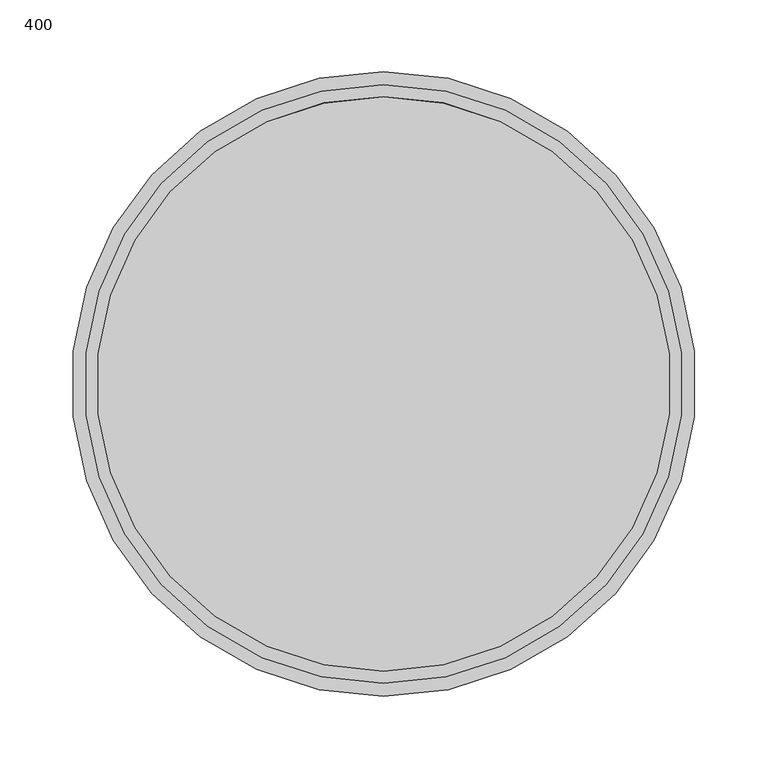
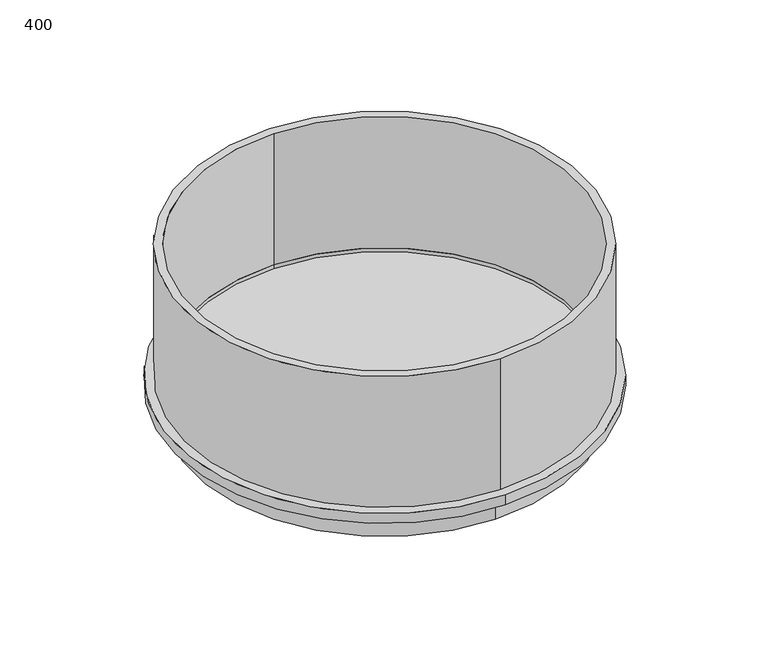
"""IFC4 building model written with IfcOpenShell, lengths in millimetres: pipe fitting geometry, Pipelife - Stormbox II - Adaptor PPDW 400 : 400."""

from ifc_helpers import new_model, si_unit, point, frame, origin, origin_2d, place, context, project, spatial, polyline, circle_curve, trimmed, segment, composite_curve, outline, extrude, source, transform, mapped, element, save
from ifc_brep_helpers import plane_surface, cylinder_surface, revolved_surface, advanced_brep


def pipe_fitting_400_25bab9bb(model_context):
    return source(origin(), model_context, "Body", "SolidModel", [
        extrude(outline(composite_curve([segment(trimmed(circle_curve(origin_2d(), 200.0), [point((0.0, 200.0))], [point((0.0, -200.0))], False, "CARTESIAN"), True, "CONTINUOUS"), segment(trimmed(circle_curve(origin_2d(), 200.0), [point((0.0, -200.0))], [point((0.0, 200.0))], False, "CARTESIAN"), True, "CONTINUOUS")], self_intersect=False), holes=[composite_curve([segment(trimmed(circle_curve(origin_2d(), 194.5), [point((-194.5, 0.0))], [point((194.5, 0.0))], True, "CARTESIAN"), True, "CONTINUOUS"), segment(trimmed(circle_curve(origin_2d(), 194.5), [point((194.5, 0.0))], [point((-194.5, 0.0))], True, "CARTESIAN"), True, "CONTINUOUS")], self_intersect=False)]), frame((0.0, 0.0, -27.0), z_axis=(0.0, 0.0, 1.0), x_axis=(1.0, 0.0, 0.0)), (0.0, 0.0, 1.0), 27.0),
        advanced_brep(
        [(0.0, 218.0, 11.0), (0.0, -218.0, 11.0), (0.0, -200.5, 11.0), (0.0, 200.5, 11.0), (0.0, 218.0, 0.0), (0.0, -218.0, 0.0), (-194.5, 0.0, 0.0), (194.5, 0.0, 0.0), (0.0, 200.5, 7.0), (0.0, -200.5, 7.0), (194.5, 0.0, 5.0), (-194.5, 0.0, 5.0)],
        [
            (0, 1, circle_curve(frame((0.0, 0.0, 11.0), z_axis=(0.0, 0.0, 1.0), x_axis=(0.0, -1.0, 0.0)), 218.0)),
            (1, 0, circle_curve(frame((0.0, 0.0, 11.0), z_axis=(0.0, 0.0, 1.0), x_axis=(0.0, -1.0, 0.0)), 218.0)),
            (2, 3, circle_curve(frame((0.0, 0.0, 11.0), z_axis=(0.0, 0.0, -1.0), x_axis=(0.0, -1.0, 0.0)), 200.5)),
            (3, 2, circle_curve(frame((0.0, 0.0, 11.0), z_axis=(0.0, 0.0, -1.0), x_axis=(0.0, -1.0, 0.0)), 200.5)),
            (4, 5, circle_curve(frame((0.0, 0.0, 0.0), z_axis=(0.0, 0.0, -1.0), x_axis=(0.0, -1.0, 0.0)), 218.0)),
            (5, 4, circle_curve(frame((0.0, 0.0, 0.0), z_axis=(0.0, 0.0, -1.0), x_axis=(0.0, -1.0, 0.0)), 218.0)),
            (6, 7, circle_curve(frame((0.0, 0.0, 0.0), z_axis=(0.0, 0.0, 1.0), x_axis=(-1.0, 0.0, 0.0)), 194.5)),
            (7, 6, circle_curve(frame((0.0, 0.0, 0.0), z_axis=(0.0, 0.0, 1.0), x_axis=(-1.0, 0.0, 0.0)), 194.5)),
            (0, 4),
            (5, 1),
            (8, 9, circle_curve(frame((0.0, 0.0, 7.0), z_axis=(0.0, 0.0, 1.0), x_axis=(0.0, -1.0, 0.0)), 200.5)),
            (9, 8, circle_curve(frame((0.0, 0.0, 7.0), z_axis=(0.0, 0.0, 1.0), x_axis=(0.0, -1.0, 0.0)), 200.5)),
            (8, 3),
            (2, 9),
            (10, 11, circle_curve(frame((0.0, 0.0, 5.0), z_axis=(0.0, 0.0, -1.0), x_axis=(-1.0, 0.0, 0.0)), 194.5)),
            (11, 10, circle_curve(frame((0.0, 0.0, 5.0), z_axis=(0.0, 0.0, -1.0), x_axis=(-1.0, 0.0, 0.0)), 194.5)),
            (10, 7),
            (6, 11),
        ],
        [
            plane_surface(frame((0.0, 0.0, 11.0), z_axis=(0.0, 0.0, 1.0), x_axis=(0.0, -1.0, 0.0))),
            plane_surface(frame((0.0, 0.0, 0.0), z_axis=(0.0, 0.0, -1.0), x_axis=(0.0, -1.0, 0.0))),
            cylinder_surface(frame((0.0, 0.0, 11.0), z_axis=(0.0, 0.0, 1.0), x_axis=(0.0, -1.0, 0.0)), 218.0),
            plane_surface(frame((0.0, 0.0, 7.0), z_axis=(0.0, 0.0, 1.0), x_axis=(0.0, -1.0, 0.0))),
            revolved_surface(polyline([(0.0, -200.5, 11.0), (0.0, -200.5, 7.0)]), (0.0, 0.0, 156.0), (0.0, 0.0, 1.0)),
            plane_surface(frame((0.0, 0.0, 5.0), z_axis=(0.0, 0.0, -1.0), x_axis=(0.0, -1.0, 0.0))),
            revolved_surface(polyline([(-194.5, 0.0, 0.0), (-194.5, 0.0, 5.0)]), (0.0, 0.0, -27.0), (0.0, 0.0, -1.0)),
        ],
        [
            (0, [[1, 2], [3, 4]]),
            (1, [[5, 6], [7, 8]]),
            (2, [[-1, 9, -6, 10]]),
            (2, [[-2, -10, -5, -9]]),
            (3, [[11, 12]]),
            (4, [[-11, 13, -3, 14]]),
            (4, [[-12, -14, -4, -13]]),
            (5, [[15, 16]]),
            (6, [[-15, 17, -7, 18]]),
            (6, [[-16, -18, -8, -17]]),
        ],
    ),
        extrude(outline(composite_curve([segment(trimmed(circle_curve(origin_2d(), 209.0), [point((0.0, 209.0))], [point((0.0, -209.0))], False, "CARTESIAN"), True, "CONTINUOUS"), segment(trimmed(circle_curve(origin_2d(), 209.0), [point((0.0, -209.0))], [point((0.0, 209.0))], False, "CARTESIAN"), True, "CONTINUOUS")], self_intersect=False), holes=[composite_curve([segment(trimmed(circle_curve(origin_2d(), 200.5), [point((0.0, 200.5))], [point((0.0, -200.5))], True, "CARTESIAN"), True, "CONTINUOUS"), segment(trimmed(circle_curve(origin_2d(), 200.5), [point((0.0, -200.5))], [point((0.0, 200.5))], True, "CARTESIAN"), True, "CONTINUOUS")], self_intersect=False)]), frame((0.0, 0.0, 11.0), z_axis=(0.0, 0.0, 1.0), x_axis=(1.0, 0.0, 0.0)), (0.0, 0.0, 1.0), 145.0),
    ])


if __name__ == "__main__":
    model = new_model("IFC4")
    model_context = context("Model", 3, world=origin())
    ifc_project = project(units=[si_unit("LENGTHUNIT", "METRE", prefix="MILLI")], contexts=[model_context])
    site = spatial("IfcSite", under=ifc_project)
    building = spatial("IfcBuilding", under=site)
    placement = place(None, origin())
    pipe_fitting_400_shape = pipe_fitting_400_25bab9bb(model_context)
    element("IfcPipeFitting", 1, ObjectType="Pipelife - Stormbox II - Adaptor PPDW 400 : 400", at=placement, inside=building, context=model_context, shape_type="MappedRepresentation", body=[
        mapped(pipe_fitting_400_shape, transform((0.0, 0.0, 0.0), x_axis=(1.0, 0.0, 0.0), y_axis=(0.0, 1.0, 0.0), z_axis=(0.0, 0.0, 1.0))),
    ])
    save(model, "model.ifc")
